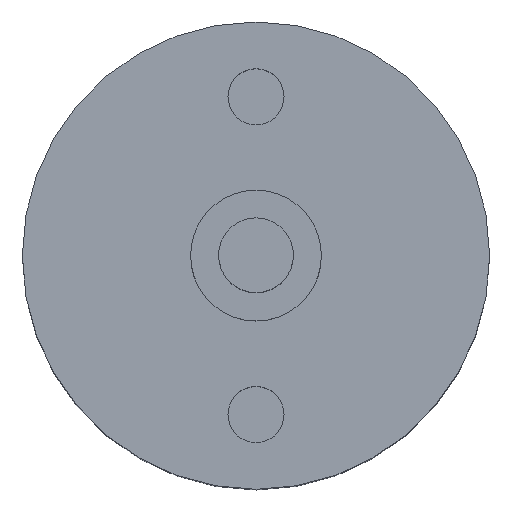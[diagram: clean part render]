
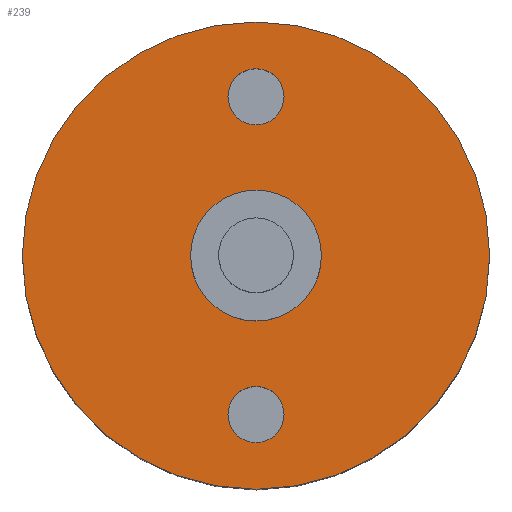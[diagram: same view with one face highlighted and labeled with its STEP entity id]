
A CAD part, top view. The second image highlights one B-rep face of the part: STEP entity #239.
In plain terms, the highlighted planar face has unit normal (0, 0, 1).
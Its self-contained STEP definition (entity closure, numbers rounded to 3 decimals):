
#17=FACE_BOUND('',#59,.T.);
#18=FACE_BOUND('',#60,.T.);
#19=FACE_BOUND('',#61,.T.);
#27=PLANE('',#290);
#41=FACE_OUTER_BOUND('',#58,.T.);
#58=EDGE_LOOP('',(#204,#205));
#59=EDGE_LOOP('',(#206));
#60=EDGE_LOOP('',(#207));
#61=EDGE_LOOP('',(#208,#209));
#79=CIRCLE('',#257,1.5);
#81=CIRCLE('',#261,1.5);
#93=CIRCLE('',#279,3.5);
#94=CIRCLE('',#280,3.5);
#99=CIRCLE('',#288,12.5);
#100=CIRCLE('',#289,12.5);
#103=VERTEX_POINT('',#384);
#105=VERTEX_POINT('',#391);
#117=VERTEX_POINT('',#424);
#118=VERTEX_POINT('',#426);
#123=VERTEX_POINT('',#440);
#124=VERTEX_POINT('',#441);
#127=EDGE_CURVE('',#103,#103,#79,.T.);
#130=EDGE_CURVE('',#105,#105,#81,.T.);
#146=EDGE_CURVE('',#118,#117,#93,.T.);
#147=EDGE_CURVE('',#117,#118,#94,.T.);
#152=EDGE_CURVE('',#123,#124,#99,.T.);
#153=EDGE_CURVE('',#124,#123,#100,.T.);
#204=ORIENTED_EDGE('',*,*,#152,.T.);
#205=ORIENTED_EDGE('',*,*,#153,.T.);
#206=ORIENTED_EDGE('',*,*,#127,.T.);
#207=ORIENTED_EDGE('',*,*,#130,.T.);
#208=ORIENTED_EDGE('',*,*,#146,.T.);
#209=ORIENTED_EDGE('',*,*,#147,.T.);
#239=ADVANCED_FACE('',(#41,#17,#18,#19),#27,.T.);
#257=AXIS2_PLACEMENT_3D('',#385,#299,#300);
#261=AXIS2_PLACEMENT_3D('',#392,#308,#309);
#279=AXIS2_PLACEMENT_3D('',#427,#348,#349);
#280=AXIS2_PLACEMENT_3D('',#428,#350,#351);
#288=AXIS2_PLACEMENT_3D('',#442,#366,#367);
#289=AXIS2_PLACEMENT_3D('',#443,#368,#369);
#290=AXIS2_PLACEMENT_3D('',#445,#371,#372);
#299=DIRECTION('center_axis',(0.,0.,-1.));
#300=DIRECTION('ref_axis',(1.,0.,0.));
#308=DIRECTION('center_axis',(0.,0.,-1.));
#309=DIRECTION('ref_axis',(1.,0.,0.));
#348=DIRECTION('center_axis',(0.,0.,-1.));
#349=DIRECTION('ref_axis',(1.,0.,0.));
#350=DIRECTION('center_axis',(0.,0.,-1.));
#351=DIRECTION('ref_axis',(1.,0.,0.));
#366=DIRECTION('center_axis',(0.,0.,1.));
#367=DIRECTION('ref_axis',(1.,0.,0.));
#368=DIRECTION('center_axis',(0.,0.,1.));
#369=DIRECTION('ref_axis',(1.,0.,0.));
#371=DIRECTION('center_axis',(0.,0.,1.));
#372=DIRECTION('ref_axis',(1.,0.,0.));
#384=CARTESIAN_POINT('',(-1.5,8.5,52.));
#385=CARTESIAN_POINT('Origin',(0.,8.5,52.));
#391=CARTESIAN_POINT('',(-1.5,-8.5,52.));
#392=CARTESIAN_POINT('Origin',(0.,-8.5,52.));
#424=CARTESIAN_POINT('',(-3.5,0.,52.));
#426=CARTESIAN_POINT('',(3.5,0.,52.));
#427=CARTESIAN_POINT('Origin',(0.,0.,
52.));
#428=CARTESIAN_POINT('Origin',(0.,0.,
52.));
#440=CARTESIAN_POINT('',(12.5,0.,52.));
#441=CARTESIAN_POINT('',(-12.5,0.,52.));
#442=CARTESIAN_POINT('Origin',(0.,0.,52.));
#443=CARTESIAN_POINT('Origin',(0.,0.,52.));
#445=CARTESIAN_POINT('Origin',(0.,0.,52.));
